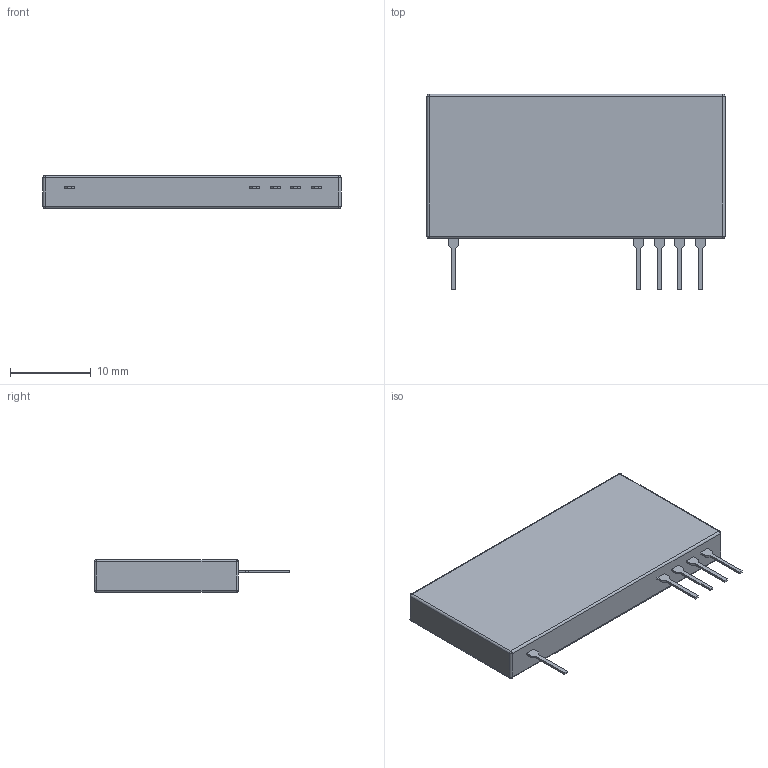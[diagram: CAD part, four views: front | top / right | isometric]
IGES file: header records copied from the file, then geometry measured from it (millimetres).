
Start section: SolidWorks IGES file using analytic representation for surfaces
Global section: file name: \\192.168.20.246\Eshare\Josh Moua\~For Darol\Checked .igs Files\SIP-Series\SIP100.IGS; native system: SolidWorks 2017; preprocessor: SolidWorks 2017; author: asmith; date: 171031.104237; units: inch
Bounding box: 36.83 x 24.13 x 4.06 mm (x, y, z)
Surface area: 1783.9 mm2 (no closed solid volume)
Topology: 0 solids, 0 shells, 71 faces, 344 edges, 336 vertices
Faces by surface type: bspline 51, revolution 20
